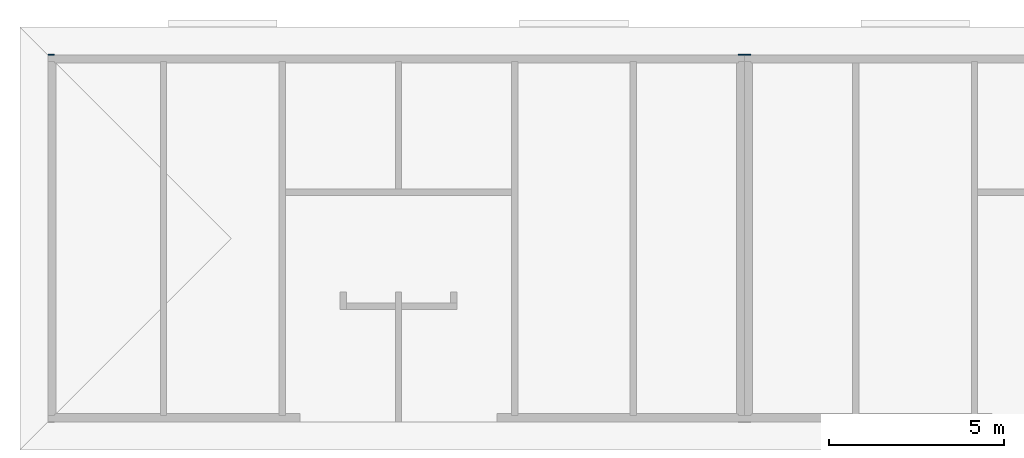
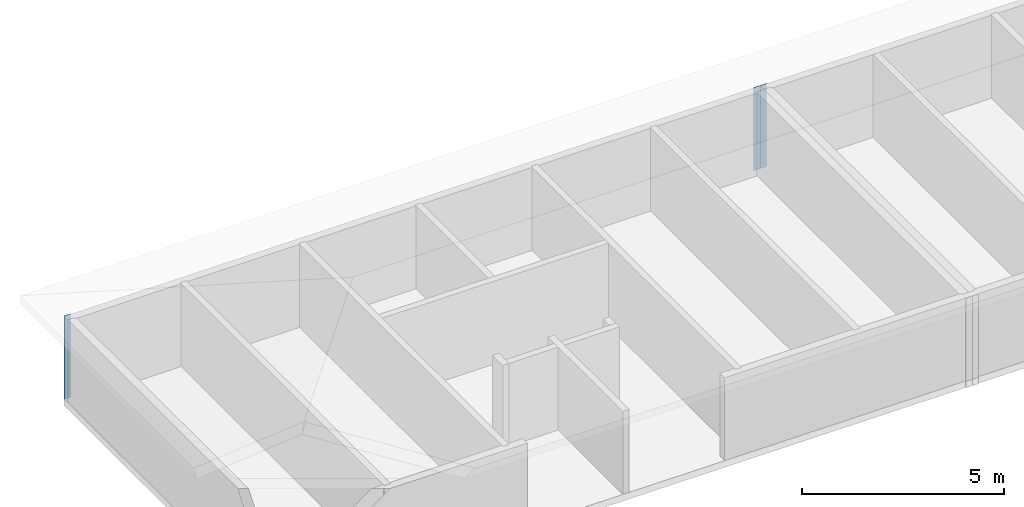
# One storey, part 3 of 10: 3 walls.
"""IFC2X3 building model written with IfcOpenShell, lengths in metres."""

from ifc_helpers import new_model, si_unit, frame, frame_2d, origin, place, context, project, spatial, rectangle, extrude, element, save


model = new_model("IFC2X3")

# Units and contexts
model_context = context("Model", 3, precision=1e-06, world=origin())
ifc_project = project(units=[si_unit("LENGTHUNIT", "METRE"), si_unit("PLANEANGLEUNIT", "RADIAN")], contexts=[model_context])

# Site, building, storey
site = spatial("IfcSite", under=ifc_project, CompositionType="ELEMENT")
building = spatial("IfcBuilding", under=site, CompositionType="ELEMENT")
storey = spatial("IfcBuildingStorey", under=building, Name="r+3", CompositionType="ELEMENT", Elevation=8.1)

# Walls
placement = place(None, origin())
wall_1_placement = place(placement, frame((19.849999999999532, 10.470077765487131, 8.1), z_axis=(0.0, 0.0, 1.0), x_axis=(-1.0, 0.0, 0.0)))
element("IfcWall", 1, at=wall_1_placement, inside=storey, context=model_context, shape_type="SweptSolid", body=[
    extrude(rectangle(XDim=0.18, YDim=0.020000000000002, at=frame_2d((0.09, 0.010000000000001), x_axis=(1.0, 0.0)), kind="CURVE"), frame((0.0, -0.020000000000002, 0.0), z_axis=(0.0, 0.0, 1.0), x_axis=(1.0, 0.0, 0.0)), (0.0, 0.0, 1.0), 2.5),
])
wall_2_placement = place(placement, frame((-4e-15, 10.49007776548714, 8.1), z_axis=(0.0, 0.0, 1.0), x_axis=(1.0, 0.0, 0.0)))
element("IfcWall", 2, at=wall_2_placement, inside=storey, context=model_context, shape_type="SweptSolid", body=[
    extrude(rectangle(XDim=0.18, YDim=0.019999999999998, at=frame_2d((0.09, 0.009999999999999), x_axis=(1.0, 0.0)), kind="CURVE"), frame((0.0, -0.019999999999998, 0.0), z_axis=(0.0, 0.0, 1.0), x_axis=(1.0, 0.0, 0.0)), (0.0, 0.0, 1.0), 2.5),
])
wall_3_placement = place(placement, frame((19.849999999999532, 10.49007776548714, 8.1), z_axis=(0.0, 0.0, 1.0), x_axis=(1.0, 0.0, 0.0)))
element("IfcWall", 3, at=wall_3_placement, inside=storey, context=model_context, shape_type="SweptSolid", body=[
    extrude(rectangle(XDim=0.18, YDim=0.02, at=frame_2d((0.09, 0.01), x_axis=(1.0, 0.0)), kind="CURVE"), frame((0.0, -0.02, 0.0), z_axis=(0.0, 0.0, 1.0), x_axis=(1.0, 0.0, 0.0)), (0.0, 0.0, 1.0), 2.5),
])

save(model, "model.ifc")
